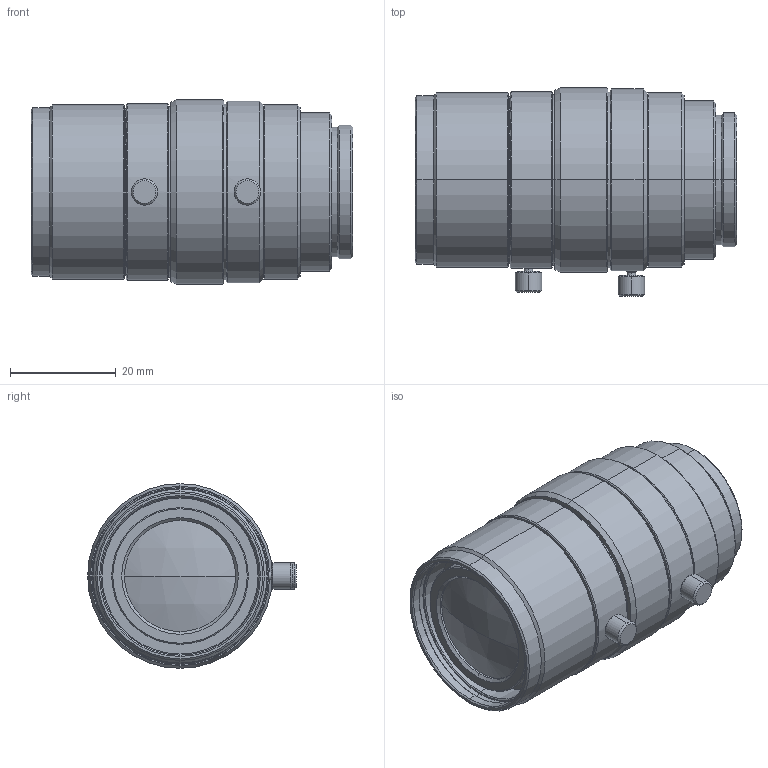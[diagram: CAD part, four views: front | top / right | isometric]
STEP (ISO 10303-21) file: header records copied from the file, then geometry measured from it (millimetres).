
FILE_DESCRIPTION (( 'STEP AP214' ), '1' );
FILE_NAME ('VS-0818-3CMOS.STEP', '2018-05-22T00:50:28', ( '' ), ( '' ), 'SwSTEP 2.0', 'SolidWorks 2018', '' );
FILE_SCHEMA (( 'AUTOMOTIVE_DESIGN' ));
Length unit declared in the file: millimetre
Products named in the file (1): VS-0818-3CMOS
Bounding box: 61 x 39.55 x 35 mm (x, y, z)
Volume: 48309.6 mm3; surface area: 10316.4 mm2
Topology: 1 solids, 1 shells, 152 faces, 310 edges, 182 vertices
Faces by surface type: cone 72, cylinder 52, plane 22, sphere 6
Entity records: 4072 total; most frequent: DIRECTION 794, CARTESIAN_POINT 707, ORIENTED_EDGE 620, AXIS2_PLACEMENT_3D 335, EDGE_CURVE 310, VERTEX_POINT 182, CIRCLE 182, EDGE_LOOP 174
